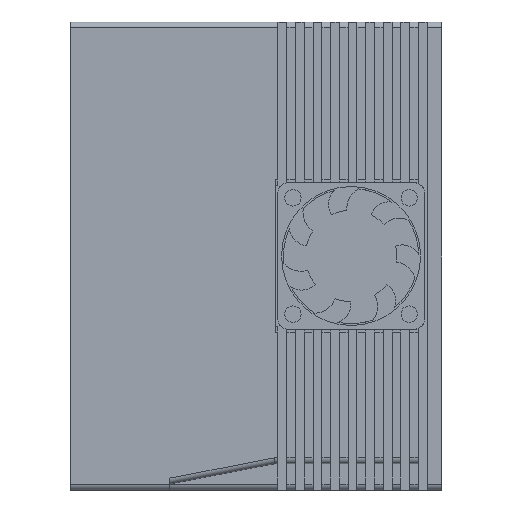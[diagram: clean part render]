
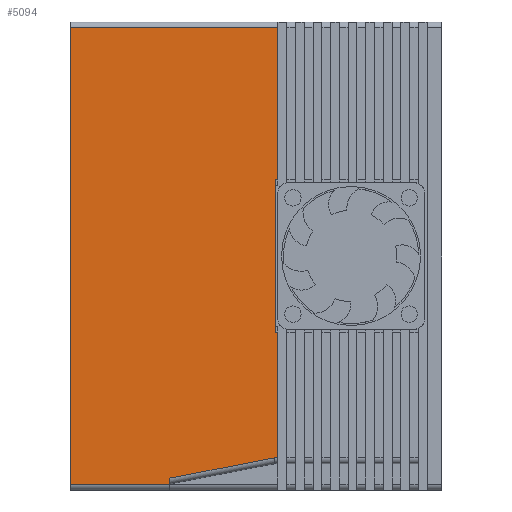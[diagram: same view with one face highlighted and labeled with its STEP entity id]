
A CAD part, left-side view. The second image highlights one B-rep face of the part: STEP entity #5094.
In plain terms, the highlighted planar face has unit normal (-1, 0, 0).
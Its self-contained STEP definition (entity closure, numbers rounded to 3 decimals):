
#14 = CARTESIAN_POINT ( 'NONE',  ( -22.5, 96.55, -76.65 ) ) ;
#62 = VERTEX_POINT ( 'NONE', #3351 ) ;
#393 = VECTOR ( 'NONE', #1990, 1000. ) ;
#661 = LINE ( 'NONE', #3862, #10636 ) ;
#746 = LINE ( 'NONE', #3001, #393 ) ;
#896 = LINE ( 'NONE', #10901, #12251 ) ;
#932 = CARTESIAN_POINT ( 'NONE',  ( -22.5, 56., 26. ) ) ;
#1056 = EDGE_CURVE ( 'NONE', #9596, #13928, #10612, .T. ) ;
#1150 = EDGE_CURVE ( 'NONE', #3534, #62, #11312, .T. ) ;
#1259 = ORIENTED_EDGE ( 'NONE', *, *, #14166, .F. ) ;
#1396 = PLANE ( 'NONE',  #9389 ) ;
#1446 = CARTESIAN_POINT ( 'NONE',  ( -22.5, 127., 80. ) ) ;
#1849 = DIRECTION ( 'NONE',  ( 0., 0., -1. ) ) ;
#1861 = EDGE_LOOP ( 'NONE', ( #13645, #10499, #1259, #4357, #9406, #11877, #9611, #4079, #3661, #10087, #4126 ) ) ;
#1872 = VERTEX_POINT ( 'NONE', #12418 ) ;
#1915 = VECTOR ( 'NONE', #3553, 1000. ) ;
#1990 = DIRECTION ( 'NONE',  ( 0., -1., 0. ) ) ;
#2141 = DIRECTION ( 'NONE',  ( 0., 1., 0. ) ) ;
#2593 = DIRECTION ( 'NONE',  ( 1., 0., 0. ) ) ;
#3001 = CARTESIAN_POINT ( 'NONE',  ( -22.5, 127., -69. ) ) ;
#3015 = LINE ( 'NONE', #5108, #10414 ) ;
#3034 = VERTEX_POINT ( 'NONE', #12943 ) ;
#3044 = CARTESIAN_POINT ( 'NONE',  ( -22.5, 57.193, -69. ) ) ;
#3069 = EDGE_CURVE ( 'NONE', #13928, #8477, #746, .T. ) ;
#3276 = VECTOR ( 'NONE', #8641, 1000. ) ;
#3351 = CARTESIAN_POINT ( 'NONE',  ( -22.5, 127., 78. ) ) ;
#3375 = CARTESIAN_POINT ( 'NONE',  ( -22.5, 127., -78. ) ) ;
#3488 = EDGE_CURVE ( 'NONE', #10813, #11829, #896, .T. ) ;
#3534 = VERTEX_POINT ( 'NONE', #3375 ) ;
#3553 = DIRECTION ( 'NONE',  ( 0., 0., 1. ) ) ;
#3661 = ORIENTED_EDGE ( 'NONE', *, *, #10763, .F. ) ;
#3757 = FACE_OUTER_BOUND ( 'NONE', #1861, .T. ) ;
#3826 = CARTESIAN_POINT ( 'NONE',  ( -22.5, 57., 26. ) ) ;
#3862 = CARTESIAN_POINT ( 'NONE',  ( -22.5, 93., -80. ) ) ;
#4079 = ORIENTED_EDGE ( 'NONE', *, *, #12070, .T. ) ;
#4126 = ORIENTED_EDGE ( 'NONE', *, *, #3069, .T. ) ;
#4357 = ORIENTED_EDGE ( 'NONE', *, *, #3488, .F. ) ;
#5094 = ADVANCED_FACE ( 'NONE', ( #3757 ), #1396, .F. ) ;
#5108 = CARTESIAN_POINT ( 'NONE',  ( -22.5, 127., -78. ) ) ;
#5192 = CARTESIAN_POINT ( 'NONE',  ( -22.5, 93., -75.96 ) ) ;
#5432 = VECTOR ( 'NONE', #9337, 1000. ) ;
#6891 = LINE ( 'NONE', #8367, #3276 ) ;
#6907 = DIRECTION ( 'NONE',  ( 0., 0., -1. ) ) ;
#7060 = LINE ( 'NONE', #12306, #9299 ) ;
#7658 = CARTESIAN_POINT ( 'NONE',  ( -22.5, 56., -80. ) ) ;
#7765 = CARTESIAN_POINT ( 'NONE',  ( -22.5, 93., -78. ) ) ;
#8076 = CARTESIAN_POINT ( 'NONE',  ( -22.5, 56., -80. ) ) ;
#8100 = CARTESIAN_POINT ( 'NONE',  ( -22.5, 56., -69. ) ) ;
#8159 = CARTESIAN_POINT ( 'NONE',  ( -22.5, 127., 78. ) ) ;
#8226 = VERTEX_POINT ( 'NONE', #7765 ) ;
#8258 = EDGE_CURVE ( 'NONE', #10813, #3034, #9860, .T. ) ;
#8346 = DIRECTION ( 'NONE',  ( 0., 1., 0. ) ) ;
#8367 = CARTESIAN_POINT ( 'NONE',  ( -22.5, 57., -26. ) ) ;
#8477 = VERTEX_POINT ( 'NONE', #8100 ) ;
#8641 = DIRECTION ( 'NONE',  ( 0., -1., 0. ) ) ;
#8807 = DIRECTION ( 'NONE',  ( 0., 0., 1. ) ) ;
#8829 = VECTOR ( 'NONE', #8346, 1000. ) ;
#9299 = VECTOR ( 'NONE', #6907, 1000. ) ;
#9337 = DIRECTION ( 'NONE',  ( 0., 0., 1. ) ) ;
#9389 = AXIS2_PLACEMENT_3D ( 'NONE', #1446, #2593, #10272 ) ;
#9406 = ORIENTED_EDGE ( 'NONE', *, *, #8258, .T. ) ;
#9487 = VERTEX_POINT ( 'NONE', #13371 ) ;
#9596 = VERTEX_POINT ( 'NONE', #5192 ) ;
#9611 = ORIENTED_EDGE ( 'NONE', *, *, #1150, .F. ) ;
#9860 = LINE ( 'NONE', #7658, #10561 ) ;
#9971 = DIRECTION ( 'NONE',  ( 0., -0.982, 0.191 ) ) ;
#10087 = ORIENTED_EDGE ( 'NONE', *, *, #1056, .T. ) ;
#10272 = DIRECTION ( 'NONE',  ( 0., 0., -1. ) ) ;
#10414 = VECTOR ( 'NONE', #10694, 1000. ) ;
#10499 = ORIENTED_EDGE ( 'NONE', *, *, #13838, .F. ) ;
#10561 = VECTOR ( 'NONE', #8807, 1000. ) ;
#10612 = LINE ( 'NONE', #14, #12832 ) ;
#10636 = VECTOR ( 'NONE', #1849, 1000. ) ;
#10694 = DIRECTION ( 'NONE',  ( 0., -1., 0. ) ) ;
#10763 = EDGE_CURVE ( 'NONE', #9596, #8226, #661, .T. ) ;
#10813 = VERTEX_POINT ( 'NONE', #932 ) ;
#10862 = LINE ( 'NONE', #8076, #1915 ) ;
#10901 = CARTESIAN_POINT ( 'NONE',  ( -22.5, 57., 26. ) ) ;
#11312 = LINE ( 'NONE', #11624, #5432 ) ;
#11624 = CARTESIAN_POINT ( 'NONE',  ( -22.5, 127., 80. ) ) ;
#11829 = VERTEX_POINT ( 'NONE', #3826 ) ;
#11877 = ORIENTED_EDGE ( 'NONE', *, *, #12516, .T. ) ;
#12070 = EDGE_CURVE ( 'NONE', #3534, #8226, #3015, .T. ) ;
#12124 = LINE ( 'NONE', #8159, #8829 ) ;
#12251 = VECTOR ( 'NONE', #2141, 1000. ) ;
#12306 = CARTESIAN_POINT ( 'NONE',  ( -22.5, 57., -24. ) ) ;
#12418 = CARTESIAN_POINT ( 'NONE',  ( -22.5, 56., -26. ) ) ;
#12516 = EDGE_CURVE ( 'NONE', #3034, #62, #12124, .T. ) ;
#12832 = VECTOR ( 'NONE', #9971, 1000. ) ;
#12943 = CARTESIAN_POINT ( 'NONE',  ( -22.5, 56., 78. ) ) ;
#13371 = CARTESIAN_POINT ( 'NONE',  ( -22.5, 57., -26. ) ) ;
#13645 = ORIENTED_EDGE ( 'NONE', *, *, #14185, .T. ) ;
#13838 = EDGE_CURVE ( 'NONE', #9487, #1872, #6891, .T. ) ;
#13928 = VERTEX_POINT ( 'NONE', #3044 ) ;
#14166 = EDGE_CURVE ( 'NONE', #11829, #9487, #7060, .T. ) ;
#14185 = EDGE_CURVE ( 'NONE', #8477, #1872, #10862, .T. ) ;
